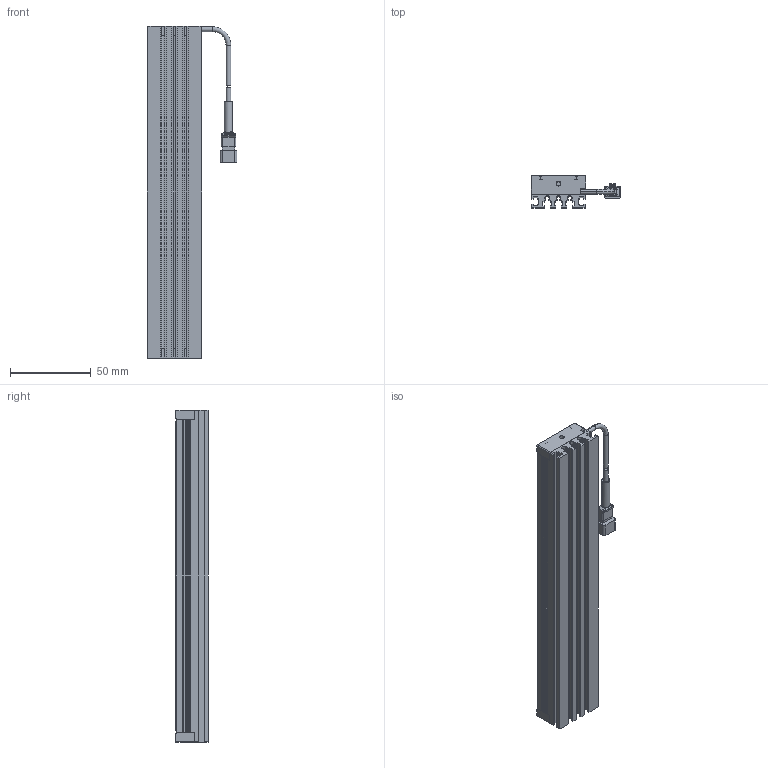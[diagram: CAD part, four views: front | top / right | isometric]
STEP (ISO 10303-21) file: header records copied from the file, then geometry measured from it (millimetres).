
FILE_DESCRIPTION (( 'STEP AP203' ), '1' );
FILE_NAME ('LDL2-194X30GR2.STEP', '2024-10-01T02:03:46', ( 'CCS' ), ( 'シーシーエス株式会社' ), 'SwSTEP 2.0', 'SolidWorks 2022', '' );
FILE_SCHEMA (( 'CONFIG_CONTROL_DESIGN' ));
Length unit declared in the file: millimetre
Products named in the file (7): フレーム30_LDL2-194X30GR2; BSCA002-N007_M2x12_CAP(三価ｸﾛﾑ黒色); LDL2-194X30GR2; ブロック30B_LDL2-194X30GR2; SMケーブル_LDL2-194X30GR2_パターン2; ブロック30A_LDL2-194X30GR2; レンズ30_LDL2-194X30GR2
Assembly tree (9 placements, depth 2):
  LDL2-194X30GR2
    フレーム30_LDL2-194X30GR2
    レンズ30_LDL2-194X30GR2
    ブロック30B_LDL2-194X30GR2
    ブロック30A_LDL2-194X30GR2
    BSCA002-N007_M2x12_CAP(三価ｸﾛﾑ黒色)  x4
    SMケーブル_LDL2-194X30GR2_パターン2
Bounding box: 55.75 x 20 x 206 mm (x, y, z)
Volume: 108175.4 mm3; surface area: 63598.4 mm2
Topology: 10 solids, 10 shells, 481 faces, 1243 edges, 785 vertices
Faces by surface type: plane 288, cylinder 107, bspline 44, cone 24, torus 18
Entity records: 14886 total; most frequent: CARTESIAN_POINT 4295, ORIENTED_EDGE 2118, DIRECTION 1903, EDGE_CURVE 1059, LINE 761, VECTOR 761, VERTEX_POINT 686, AXIS2_PLACEMENT_3D 571
